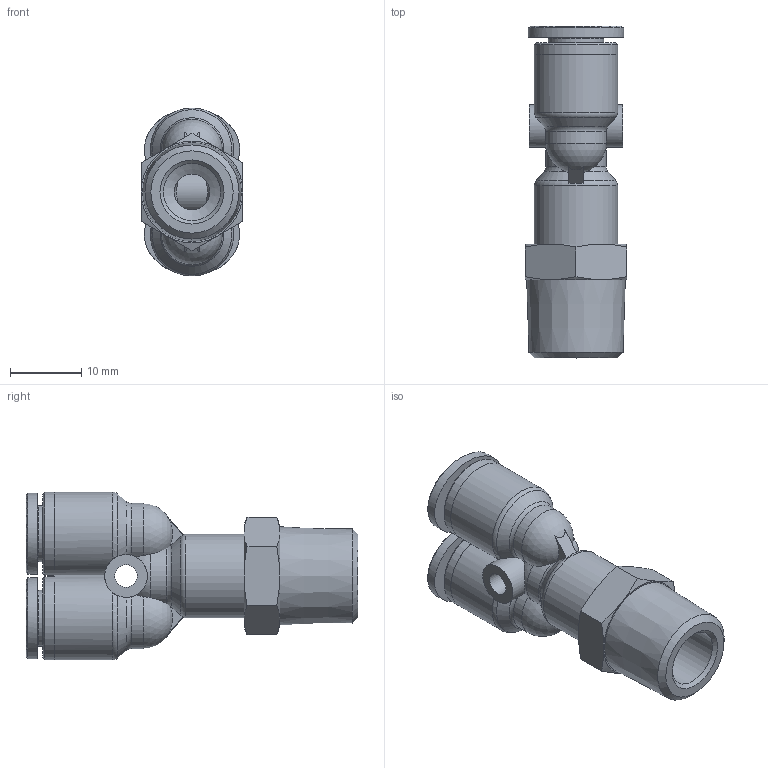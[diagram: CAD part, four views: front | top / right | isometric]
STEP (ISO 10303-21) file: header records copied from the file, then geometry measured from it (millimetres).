
FILE_DESCRIPTION((''),'2;1');
FILE_NAME('C:\Users\user0117\Desktop\김진일\홈페이지\1_4\Internet\GPWT 1_4-N02U.stp','2019-09-02T10:08:36',('user0117'),(''),'Autodesk Inventor 2013','Autodesk Inventor 2013','');
FILE_SCHEMA(('AUTOMOTIVE_DESIGN { 1 0 10303 214 1 1 1 1 }'));
Length unit declared in the file: millimetre
Products named in the file (6): GPWT 1_4-N02U; GPWT BODY 1-4 N02(BRASS); GPY BODY 1-4(PLASTIC); G-COLLAR G1-4L; COLLAR G1-4L; SLEEVE G1-4
Assembly tree (6 placements, depth 3):
  GPWT 1_4-N02U
    GPWT BODY 1-4 N02(BRASS)
    GPY BODY 1-4(PLASTIC)
    G-COLLAR G1-4L  x2
      COLLAR G1-4L
      SLEEVE G1-4
Bounding box: 14.29 x 46.65 x 23.6 mm (x, y, z)
Volume: 5110 mm3; surface area: 5520.6 mm2
Topology: 6 solids, 6 shells, 355 faces, 931 edges, 611 vertices
Faces by surface type: plane 224, cylinder 46, bspline 44, cone 26, sphere 8, torus 7
Full cylindrical faces by diameter (mm): 3.2 x1, 5 x1, 6 x2, 6.55 x7, 7.85 x2, 8 x1, 11.7 x3
Entity records: 7561 total; most frequent: CARTESIAN_POINT 2053, ORIENTED_EDGE 1128, DIRECTION 1059, EDGE_CURVE 564, VERTEX_POINT 382, AXIS2_PLACEMENT_3D 370, VECTOR 319, LINE 319
